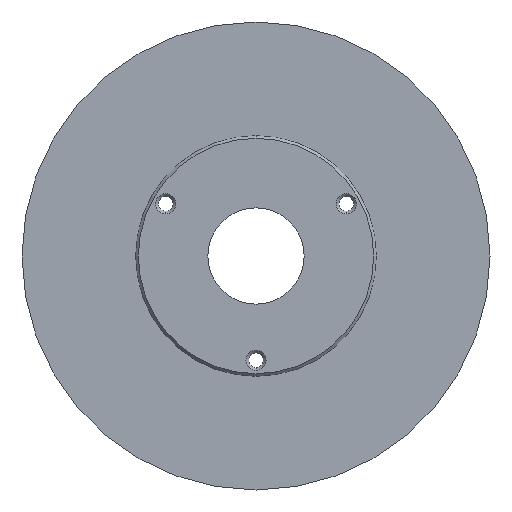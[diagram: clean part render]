
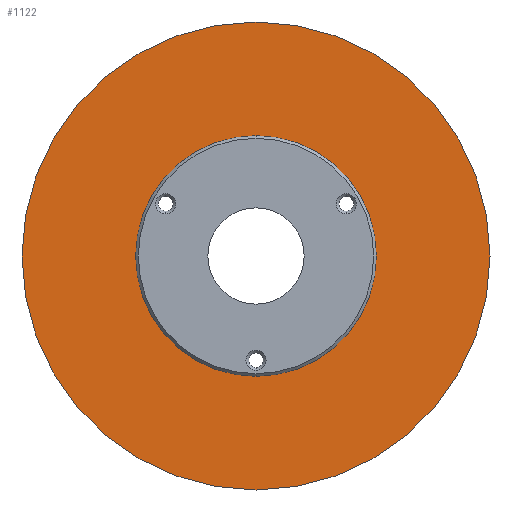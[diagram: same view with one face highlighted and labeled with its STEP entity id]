
A CAD part, front view. The second image highlights one B-rep face of the part: STEP entity #1122.
In plain terms, the highlighted planar face has unit normal (0, -1, 0).
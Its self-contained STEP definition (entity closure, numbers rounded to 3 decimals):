
#47 = EDGE_CURVE ( 'NONE', #976, #1124, #280, .T. ) ;
#60 = VERTEX_POINT ( 'NONE', #711 ) ;
#78 = FACE_BOUND ( 'NONE', #678, .T. ) ;
#148 = DIRECTION ( 'NONE',  ( 0., 0., -1. ) ) ;
#174 = CIRCLE ( 'NONE', #330, 87.5 ) ;
#197 = EDGE_LOOP ( 'NONE', ( #444, #691 ) ) ;
#202 = VERTEX_POINT ( 'NONE', #908 ) ;
#229 = CARTESIAN_POINT ( 'NONE',  ( 0., 4., -45. ) ) ;
#230 = CARTESIAN_POINT ( 'NONE',  ( 0., 4., 0. ) ) ;
#280 = CIRCLE ( 'NONE', #1009, 45. ) ;
#286 = DIRECTION ( 'NONE',  ( 0., -1., 0. ) ) ;
#330 = AXIS2_PLACEMENT_3D ( 'NONE', #1055, #888, #881 ) ;
#370 = CARTESIAN_POINT ( 'NONE',  ( 0., 4., 0. ) ) ;
#394 = AXIS2_PLACEMENT_3D ( 'NONE', #370, #1016, #727 ) ;
#442 = DIRECTION ( 'NONE',  ( 0., 0., -1. ) ) ;
#444 = ORIENTED_EDGE ( 'NONE', *, *, #847, .T. ) ;
#469 = ORIENTED_EDGE ( 'NONE', *, *, #47, .F. ) ;
#510 = CARTESIAN_POINT ( 'NONE',  ( 0., 4., 45. ) ) ;
#649 = AXIS2_PLACEMENT_3D ( 'NONE', #1037, #958, #765 ) ;
#678 = EDGE_LOOP ( 'NONE', ( #1134, #469 ) ) ;
#691 = ORIENTED_EDGE ( 'NONE', *, *, #1039, .T. ) ;
#711 = CARTESIAN_POINT ( 'NONE',  ( 0., 4., 87.5 ) ) ;
#727 = DIRECTION ( 'NONE',  ( 0., 0., -1. ) ) ;
#765 = DIRECTION ( 'NONE',  ( 0., 0., 1. ) ) ;
#847 = EDGE_CURVE ( 'NONE', #202, #60, #884, .T. ) ;
#881 = DIRECTION ( 'NONE',  ( 0., 0., -1. ) ) ;
#884 = CIRCLE ( 'NONE', #394, 87.5 ) ;
#888 = DIRECTION ( 'NONE',  ( 0., -1., 0. ) ) ;
#908 = CARTESIAN_POINT ( 'NONE',  ( 0., 4., -87.5 ) ) ;
#958 = DIRECTION ( 'NONE',  ( 0., 1., 0. ) ) ;
#965 = EDGE_CURVE ( 'NONE', #1124, #976, #1010, .T. ) ;
#966 = AXIS2_PLACEMENT_3D ( 'NONE', #230, #1066, #148 ) ;
#976 = VERTEX_POINT ( 'NONE', #510 ) ;
#1009 = AXIS2_PLACEMENT_3D ( 'NONE', #1195, #286, #442 ) ;
#1010 = CIRCLE ( 'NONE', #966, 45. ) ;
#1016 = DIRECTION ( 'NONE',  ( 0., -1., 0. ) ) ;
#1037 = CARTESIAN_POINT ( 'NONE',  ( -45., 4., 0. ) ) ;
#1039 = EDGE_CURVE ( 'NONE', #60, #202, #174, .T. ) ;
#1042 = PLANE ( 'NONE',  #649 ) ;
#1055 = CARTESIAN_POINT ( 'NONE',  ( 0., 4., 0. ) ) ;
#1066 = DIRECTION ( 'NONE',  ( 0., -1., 0. ) ) ;
#1086 = FACE_OUTER_BOUND ( 'NONE', #197, .T. ) ;
#1122 = ADVANCED_FACE ( 'NONE', ( #78, #1086 ), #1042, .F. ) ;
#1124 = VERTEX_POINT ( 'NONE', #229 ) ;
#1134 = ORIENTED_EDGE ( 'NONE', *, *, #965, .F. ) ;
#1195 = CARTESIAN_POINT ( 'NONE',  ( 0., 4., 0. ) ) ;
